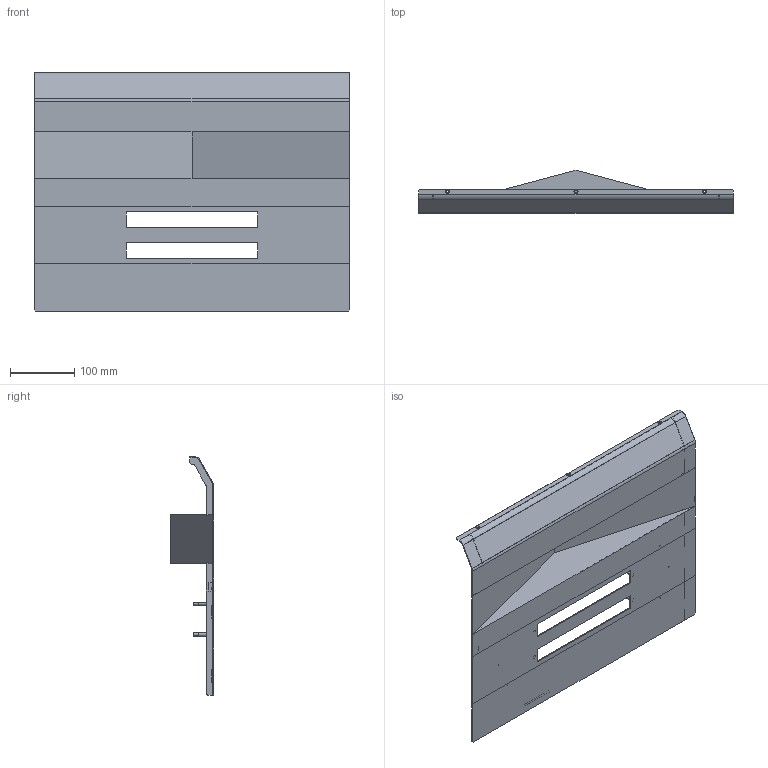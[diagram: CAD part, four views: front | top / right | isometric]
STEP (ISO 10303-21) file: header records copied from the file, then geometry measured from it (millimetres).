
FILE_DESCRIPTION (( 'STEP AP214' ), '1' );
FILE_NAME ('JYXJ-000-005-001-A 喃萇ヶ醱啣.STEP', '2025-06-25T08:50:56', ( '' ), ( '' ), 'SwSTEP 2.0', 'SolidWorks 2020', '' );
FILE_SCHEMA (( 'AUTOMOTIVE_DESIGN' ));
Length unit declared in the file: millimetre
Products named in the file (1): JYXJ-000-005-001-A 喃萇ヶ醱啣
Bounding box: 490 x 67.15 x 371 mm (x, y, z)
Volume: 337027.4 mm3; surface area: 452489.3 mm2
Topology: 1 solids, 1 shells, 192 faces, 530 edges, 344 vertices
Faces by surface type: plane 122, cylinder 56, cone 14
Entity records: 6324 total; most frequent: CARTESIAN_POINT 1059, ORIENTED_EDGE 1044, DIRECTION 1032, EDGE_CURVE 522, LINE 398, VECTOR 398, VERTEX_POINT 344, AXIS2_PLACEMENT_3D 317
